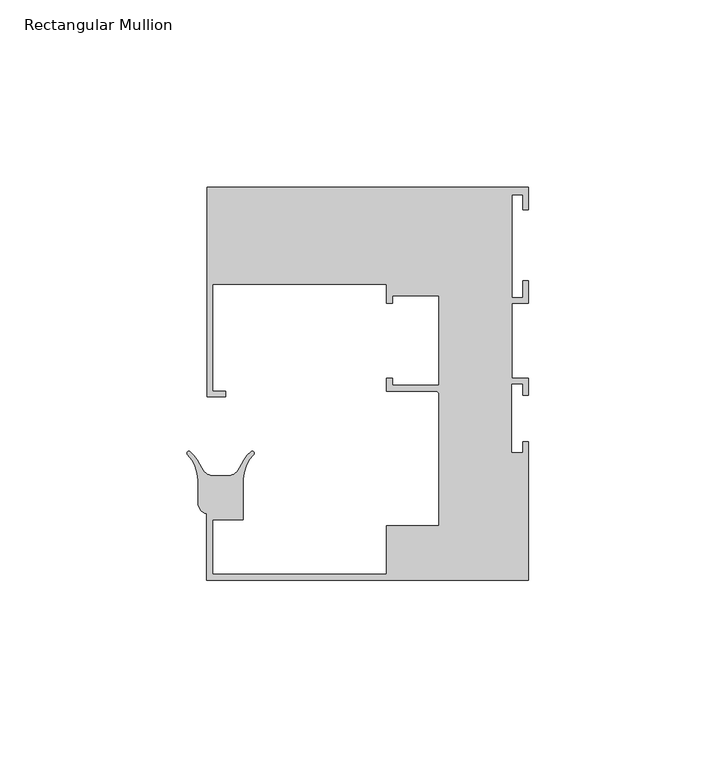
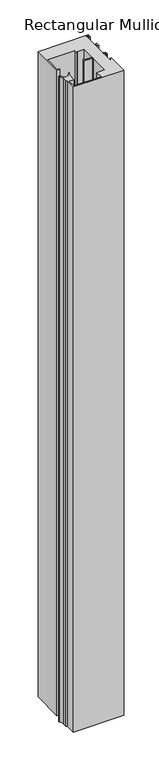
"""IFC4 building model written with IfcOpenShell, lengths in millimetres: member geometry, Rectangular Mullion : Danpal_Airpt_End-Mullion_B2."""

import ifcopenshell
import ifcopenshell.guid

model = None  # the IFC model being written
_history = None  # IfcOwnerHistory: only IFC2X3 demands one
_inside = {}  # id of a spatial element -> (the spatial element, [elements in it])
_under = {}  # id of a project, library or spatial element -> (it, [spatial elements below it])
_declared = {}  # id of a project -> (the project, [libraries it declares])
_typed = {}  # id of a type object -> (the type object, [elements of that type])
_made_of = {}  # id of a material, layer set ... -> (it, [elements and type objects made of it])


def new_model(schema):
    """Start an empty IFC model of exactly this schema.

    Asked for "IFC4X3", IfcOpenShell would pick the latest addendum, in which some entities
    have other attributes; the version numbers below select the first issue.
    IFC2X3 requires an IfcOwnerHistory on every rooted entity: one is made here for all.
    """
    global model, _history
    if schema == "IFC4X3":
        model = ifcopenshell.file(schema_version=(4, 3, 0, 0))
    else:
        model = ifcopenshell.file(schema=schema)
    _inside.clear()
    _under.clear()
    _declared.clear()
    _typed.clear()
    _made_of.clear()
    _history = None
    if model.schema == "IFC2X3":
        org = make("IfcOrganization", Name="unknown")
        user = make(
            "IfcPersonAndOrganization",
            ThePerson=make("IfcPerson", FamilyName="unknown"),
            TheOrganization=org,
        )
        app = make(
            "IfcApplication",
            ApplicationDeveloper=org,
            Version="unknown",
            ApplicationFullName="unknown",
            ApplicationIdentifier="unknown",
        )
        _history = make(
            "IfcOwnerHistory",
            OwningUser=user,
            OwningApplication=app,
            ChangeAction="ADDED",
            CreationDate=0,
        )
    return model


def make(cls, **values):
    """One entity of the class cls with the attributes given. An attribute that is None is left unset."""
    return model.create_entity(
        cls, **{name: value for name, value in values.items() if value is not None}
    )


def rooted(cls, **values):
    """An entity with a GlobalId (a new one), such as an element, a storey or a relation."""
    return make(cls, GlobalId=ifcopenshell.guid.new(), OwnerHistory=_history, **values)


def si_unit(unit_type, name, prefix=None):
    """IfcSIUnit, for example si_unit("LENGTHUNIT", "METRE", prefix="MILLI")."""
    return make("IfcSIUnit", UnitType=unit_type, Prefix=prefix, Name=name)


def assignment(units):
    """IfcUnitAssignment: the units of a project."""
    return None if units is None else make("IfcUnitAssignment", Units=units)


def point(xyz):
    """IfcCartesianPoint."""
    return None if xyz is None else make("IfcCartesianPoint", Coordinates=xyz)


def direction(xyz):
    """IfcDirection."""
    return None if xyz is None else make("IfcDirection", DirectionRatios=xyz)


def frame(location, z_axis=None, x_axis=None):
    """IfcAxis2Placement3D, a coordinate frame: its origin and axes. An axis left out is left unset."""
    return make(
        "IfcAxis2Placement3D",
        Location=point(location),
        Axis=direction(z_axis),
        RefDirection=direction(x_axis),
    )


def frame_2d(location, x_axis=None):
    """IfcAxis2Placement2D, a coordinate frame in the plane: its origin and x axis."""
    return make(
        "IfcAxis2Placement2D", Location=point(location), RefDirection=direction(x_axis)
    )


def origin():
    """The frame at (0, 0, 0) with its axes left unset."""
    return frame((0.0, 0.0, 0.0))


def place(relative_to, where):
    """IfcLocalPlacement: puts the frame where relative to a parent placement (None: the world)."""
    return make(
        "IfcLocalPlacement", PlacementRelTo=relative_to, RelativePlacement=where
    )


def context(
    kind, dimensions, precision=None, world=None, true_north=None, identifier=None
):
    """IfcGeometricRepresentationContext, for example the 3D "Model" context."""
    return make(
        "IfcGeometricRepresentationContext",
        ContextIdentifier=identifier,
        ContextType=kind,
        CoordinateSpaceDimension=dimensions,
        Precision=precision,
        WorldCoordinateSystem=world,
        TrueNorth=true_north,
    )


def project(units=None, contexts=None):
    """IfcProject with its units and contexts."""
    return rooted(
        "IfcProject",
        Name="project",
        RepresentationContexts=contexts,
        UnitsInContext=assignment(units),
    )


def spatial(cls, under=None, at=None, **own):
    """A site, building, storey or space (cls), placed at a placement, below another one or the project."""
    s = rooted(cls, ObjectPlacement=at, **own)
    if under is not None:
        _under.setdefault(under.id(), (under, []))[1].append(s)
    return s


def polyline(points):
    """IfcPolyline through the points."""
    return make("IfcPolyline", Points=[point(p) for p in points])


def circle_curve(where, radius):
    """IfcCircle in the frame where."""
    return make("IfcCircle", Position=where, Radius=radius)


def trimmed(basis, trim1, trim2, sense, master):
    """IfcTrimmedCurve: the piece of a basis curve between two trims."""
    return make(
        "IfcTrimmedCurve",
        BasisCurve=basis,
        Trim1=trim1,
        Trim2=trim2,
        SenseAgreement=sense,
        MasterRepresentation=master,
    )


def segment(curve, same_sense, transition):
    """IfcCompositeCurveSegment."""
    return make(
        "IfcCompositeCurveSegment",
        Transition=transition,
        SameSense=same_sense,
        ParentCurve=curve,
    )


def composite_curve(segments, self_intersect=None):
    """IfcCompositeCurve: segments joined end to end."""
    return make("IfcCompositeCurve", Segments=segments, SelfIntersect=self_intersect)


def outline(outer, holes=None, kind="AREA"):
    """IfcArbitraryClosedProfileDef: a profile drawn as a closed curve; with holes, ...WithVoids."""
    if holes is None:
        return make("IfcArbitraryClosedProfileDef", ProfileType=kind, OuterCurve=outer)
    return make(
        "IfcArbitraryProfileDefWithVoids",
        ProfileType=kind,
        OuterCurve=outer,
        InnerCurves=holes,
    )


def extrude(swept, where, along, depth):
    """IfcExtrudedAreaSolid: the profile swept, set in the frame where, extruded along a direction by depth."""
    return make(
        "IfcExtrudedAreaSolid",
        SweptArea=swept,
        Position=where,
        ExtrudedDirection=direction(along),
        Depth=depth,
    )


def shape(context_of_items, identifier, shape_type, items):
    """IfcShapeRepresentation: the items that make up one representation, for example the "Body"."""
    return make(
        "IfcShapeRepresentation",
        ContextOfItems=context_of_items,
        RepresentationIdentifier=identifier,
        RepresentationType=shape_type,
        Items=items,
    )


def source(mapping_origin, context_of_items, identifier, shape_type, items):
    """IfcRepresentationMap: a shape defined once, which mapped items show again and again."""
    return make(
        "IfcRepresentationMap",
        MappingOrigin=mapping_origin,
        MappedRepresentation=shape(context_of_items, identifier, shape_type, items),
    )


def transform(
    local_origin,
    x_axis=None,
    y_axis=None,
    z_axis=None,
    scale=None,
    scale2=None,
    scale3=None,
    uniform=True,
):
    """IfcCartesianTransformationOperator3D, or its non-uniform kind. x_axis, y_axis, z_axis: its Axis1, 2, 3."""
    if uniform:
        return make(
            "IfcCartesianTransformationOperator3D",
            Axis1=direction(x_axis),
            Axis2=direction(y_axis),
            LocalOrigin=point(local_origin),
            Scale=scale,
            Axis3=direction(z_axis),
        )
    return make(
        "IfcCartesianTransformationOperator3DnonUniform",
        Axis1=direction(x_axis),
        Axis2=direction(y_axis),
        LocalOrigin=point(local_origin),
        Scale=scale,
        Axis3=direction(z_axis),
        Scale2=scale2,
        Scale3=scale3,
    )


def mapped(mapping_source, mapping_target):
    """IfcMappedItem: shows the shape of a source again, moved by a transform."""
    return make(
        "IfcMappedItem", MappingSource=mapping_source, MappingTarget=mapping_target
    )


def made_of(thing, what):
    """Note that an element or type object is made of a material, layer set ...; save() writes the relation."""
    if what is not None:
        _made_of.setdefault(what.id(), (what, []))[1].append(thing)
    return thing


def element(
    cls,
    number,
    at=None,
    inside=None,
    cuts=None,
    type_object=None,
    material=None,
    context=None,
    identifier="Body",
    shape_type=None,
    held_by="IfcProductDefinitionShape",
    body=None,
    shapes=None,
    **own,
):
    """One element of the class cls, such as IfcWall. Its Tag is "e" and its number.

    at: its placement. inside: the storey or other place that contains it. cuts: it is an
    opening in that element (IfcRelVoidsElement). A single representation is given by context,
    identifier, shape_type and body (its items); several are given by shapes. held_by: the class
    of the entity that holds the representations. save() writes the other relations.
    """
    e = rooted(cls, Tag="e%d" % number, ObjectPlacement=at, **own)
    if body is not None:
        shapes = [shape(context, identifier, shape_type, body)]
    if shapes is not None:
        e.Representation = make(held_by, Representations=shapes)
    if inside is not None:
        _inside.setdefault(inside.id(), (inside, []))[1].append(e)
    if cuts is not None:
        rooted(
            "IfcRelVoidsElement", RelatingBuildingElement=cuts, RelatedOpeningElement=e
        )
    if type_object is not None:
        _typed.setdefault(type_object.id(), (type_object, []))[1].append(e)
    return made_of(e, material)


def aggregate(whole, parts):
    """IfcRelAggregates: a whole, such as a stair, and the parts it consists of."""
    return rooted("IfcRelAggregates", RelatingObject=whole, RelatedObjects=parts)


def save(model, path):
    """Write the relations noted so far, then the file.

    IfcRelAggregates (storeys below a building ...), IfcRelContainedInSpatialStructure (elements
    in a storey), IfcRelDefinesByType, IfcRelAssociatesMaterial and IfcRelDeclares: one each for
    every whole, place, type object, material and project.
    """
    for whole, parts in _under.values():
        aggregate(whole, parts)
    for where, things in _inside.values():
        rooted(
            "IfcRelContainedInSpatialStructure",
            RelatedElements=things,
            RelatingStructure=where,
        )
    for kind, things in _typed.values():
        rooted("IfcRelDefinesByType", RelatedObjects=things, RelatingType=kind)
    for what, things in _made_of.values():
        rooted("IfcRelAssociatesMaterial", RelatedObjects=things, RelatingMaterial=what)
    for by, libraries in _declared.values():
        rooted("IfcRelDeclares", RelatingContext=by, RelatedDefinitions=libraries)
    model.write(path)


def rectangular_mullion_b0f017b2(model_context):
    return source(origin(), model_context, "Body", "SweptSolid", [
        extrude(outline(composite_curve([segment(polyline([(-84.5, 44.249979), (-84.5, 15.7500001), (-81.0, 15.7500001), (-81.0, 14.2500001), (-86.0, 14.2500001), (-86.0, 70.2500001), (0.0, 70.2500001), (0.0, 64.2500001), (-1.5, 64.2500001), (-1.5, 68.2500001), (-4.5, 68.2500001), (-4.5, 40.7500001), (-1.5180937, 40.7500001), (-1.5180937, 45.2500001), (-0.0180937, 45.2500001), (-0.0180937, 39.2500001), (-4.5, 39.2500001), (-4.5, 19.25), (-0.0180922, 19.25), (-0.0180922, 14.65), (-1.5180922, 14.65), (-1.5180922, 17.65), (-4.5180922, 17.65), (-4.5180922, -0.75), (-1.5180922, -0.75), (-1.5180922, 2.25), (-0.0180922, 2.25), (-0.0180922, -34.75), (-86.0180914, -34.75), (-86.0180914, -17.0365625)]), True, "CONTINUOUS"), segment(trimmed(circle_curve(frame_2d((-85.366716, -14.1081309)), 3.0000002), [point((-86.0180914, -17.0365625))], [point((-88.3666989, -14.1183419))], False, "CARTESIAN"), True, "CONTINUOUS"), segment(polyline([(-88.3666989, -14.1183419), (-88.3666989, -8.1181379)]), True, "CONTINUOUS"), segment(trimmed(circle_curve(frame_2d((-98.3666403, -8.1523787)), 10.0), [point((-88.3666989, -8.1181379))], [point((-91.1789286, -1.1999114))], True, "CARTESIAN"), True, "CONTINUOUS"), segment(trimmed(circle_curve(frame_2d((-90.8194227, -0.8521716)), 0.5001675), [point((-91.1789286, -1.1999114))], [point((-90.4970116, -0.4697862))], False, "CARTESIAN"), True, "CONTINUOUS"), segment(trimmed(circle_curve(frame_2d((-96.9430732, -8.114934)), 9.9999998), [point((-90.4970116, -0.4697862))], [point((-87.9289412, -3.785336))], False, "CARTESIAN"), True, "CONTINUOUS"), segment(trimmed(circle_curve(frame_2d((-78.9148092, 0.544262)), 9.9999997), [point((-87.9289412, -3.785336))], [point((-86.6990305, -5.7331494))], True, "CARTESIAN"), True, "CONTINUOUS"), segment(trimmed(circle_curve(frame_2d((-84.363764, -3.8499259)), 3.0), [point((-86.6990305, -5.7331494))], [point((-84.363764, -6.8499259))], True, "CARTESIAN"), True, "CONTINUOUS"), segment(polyline([(-84.363764, -6.8499259), (-80.32512, -6.8499259)]), True, "CONTINUOUS"), segment(trimmed(circle_curve(frame_2d((-80.32512, -3.8499259)), 3.0), [point((-80.32512, -6.8499259))], [point((-77.9898528, -5.7331484))], True, "CARTESIAN"), True, "CONTINUOUS"), segment(trimmed(circle_curve(frame_2d((-85.7740768, 0.5442599)), 10.0), [point((-77.9898528, -5.7331484))], [point((-76.759944, -3.7853369))], True, "CARTESIAN"), True, "CONTINUOUS"), segment(trimmed(circle_curve(frame_2d((-67.7458114, -8.1149337)), 9.9999997), [point((-76.759944, -3.7853369))], [point((-74.1944462, -0.4719563))], False, "CARTESIAN"), True, "CONTINUOUS"), segment(trimmed(circle_curve(frame_2d((-73.8718016, -0.8543575)), 0.5003301), [point((-74.1944462, -0.4719563))], [point((-73.5120728, -1.2021009))], False, "CARTESIAN"), True, "CONTINUOUS"), segment(trimmed(circle_curve(frame_2d((-66.322244, -8.1523787)), 10.0), [point((-73.5120728, -1.2021009))], [point((-76.3180945, -7.8643287))], True, "CARTESIAN"), True, "CONTINUOUS"), segment(polyline([(-76.3180945, -7.8643287), (-76.3180945, -18.6499969), (-84.5180945, -18.6499969), (-84.5180945, -33.2499969), (-38.0180899, -33.2499969), (-38.0180899, -20.2499969), (-23.9180899, -20.2499969), (-23.9180899, 14.698377)]), True, "CONTINUOUS"), segment(trimmed(circle_curve(frame_2d((-24.969716, 14.698377)), 1.0516261), [point((-23.9180899, 14.698377))], [point((-24.969716, 15.7500031))], True, "CARTESIAN"), True, "CONTINUOUS"), segment(polyline([(-24.969716, 15.7500031), (-38.0180899, 15.7500031), (-38.0180899, 19.2500031), (-36.4180899, 19.2500031), (-36.4180899, 17.2500031), (-23.9180899, 17.2500031), (-23.9180899, 41.2500001), (-36.4, 41.2500001), (-36.4, 39.2500001), (-38.0, 39.2500001), (-38.0, 44.249979), (-84.5, 44.249979)]), True, "CONTINUOUS")], self_intersect=False)), frame((0.0, 0.0, -1166.6666667), z_axis=(0.0, 0.0, 1.0), x_axis=(1.0, 0.0, 0.0)), (0.0, 0.0, 1.0), 1166.6666667),
    ])


if __name__ == "__main__":
    model = new_model("IFC4")
    model_context = context("Model", 3, world=origin())
    ifc_project = project(units=[si_unit("LENGTHUNIT", "METRE", prefix="MILLI")], contexts=[model_context])
    site = spatial("IfcSite", under=ifc_project)
    building = spatial("IfcBuilding", under=site)
    placement = place(None, origin())
    rectangular_mullion_shape = rectangular_mullion_b0f017b2(model_context)
    element("IfcMember", 1, ObjectType="Rectangular Mullion : Danpal_Airpt_End-Mullion_B2", at=placement, inside=building, context=model_context, shape_type="MappedRepresentation", body=[
        mapped(rectangular_mullion_shape, transform((0.0, 0.0, 0.0), x_axis=(1.0, 0.0, 0.0), y_axis=(0.0, 1.0, 0.0), z_axis=(0.0, 0.0, 1.0))),
    ])
    save(model, "model.ifc")
